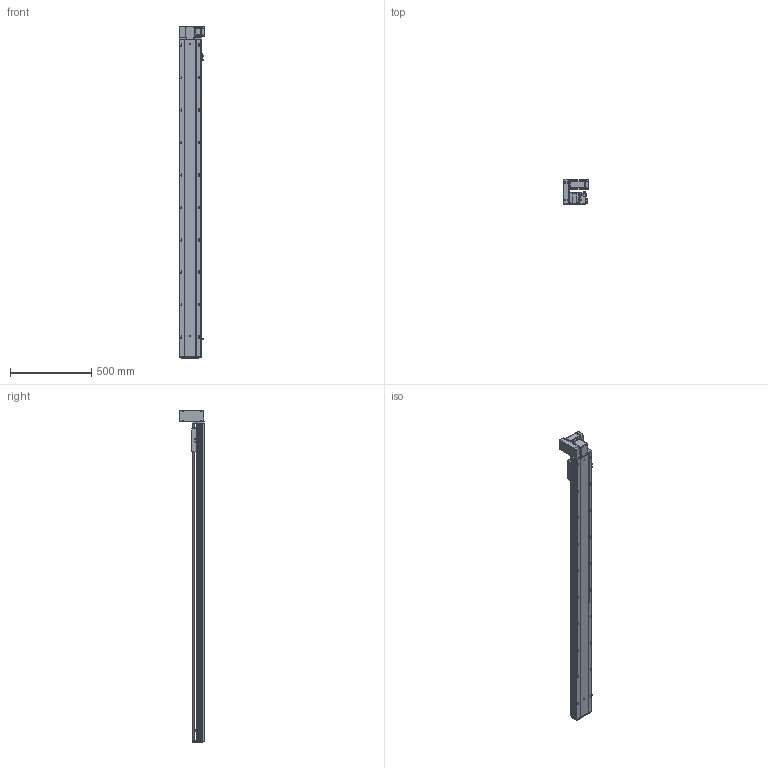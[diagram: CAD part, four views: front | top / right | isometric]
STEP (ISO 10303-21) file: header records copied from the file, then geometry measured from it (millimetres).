
FILE_DESCRIPTION (( 'STEP AP203' ), '1' );
FILE_NAME ('RY140-T-300-UL.SLDASM_1700.step', '2021-03-01T07:44:50', ( '盈信电脑' ), ( '东莞市道滘镇水果街19号' ), 'SwSTEP 2.0', 'SolidWorks 2012', '' );
FILE_SCHEMA (( 'CONFIG_CONTROL_DESIGN' ));
Length unit declared in the file: millimetre
Products named in the file (18): RY140-T-300-UL.SLDASM_1700; RY140-T翋肮謫裔啣; RY120-T主同步轮轴承压盖; RY140-T萇儂欶; RY120-T蹟翐M4; 滅袉蝶18-10; 侂狟400W侜督萇儂; RY140-T萇儂假蚾啣; 15; RY120-T肮祭湍揤踡輸2; RY140-T翋肮祭謫盓傅釱; RY120外置感应片(140共用）; RY120-T肮祭湍揤踡輸1; RY140綴裔啣; RY140肮祭謫臏賑輸; RY140-T-300-DL倰第奻裔啣_1700; 覜茼ん672; RY140-T-300-DL倰第菁釱_1700
Assembly tree (23 placements, depth 3):
  RY140-T-300-UL.SLDASM_1700
    RY140-T-300-DL倰第菁釱_1700
    RY140肮祭謫臏賑輸
    RY140-T-300-DL倰第奻裔啣_1700
    RY140綴裔啣
    覜茼ん672  x3
    RY120外置感应片(140共用）
    RY120-T肮祭湍揤踡輸2
    RY120-T肮祭湍揤踡輸1
    RY140-T翋肮祭謫盓傅釱
    RY140-T萇儂假蚾啣
    侂狟400W侜督萇儂
      15
    RY120-T主同步轮轴承压盖
    RY120-T蹟翐M4  x4
    RY140-T萇儂欶
    滅袉蝶18-10  x2
    RY140-T翋肮謫裔啣
Bounding box: 157 x 152.5 x 2046 mm (x, y, z)
Volume: 5671616.8 mm3; surface area: 2207896.7 mm2
Topology: 22 solids, 22 shells, 2815 faces, 7717 edges, 4918 vertices
Faces by surface type: plane 1381, cylinder 1064, cone 270, bspline 100
Entity records: 88915 total; most frequent: CARTESIAN_POINT 21579, ORIENTED_EDGE 13818, DIRECTION 13213, EDGE_CURVE 6909, VERTEX_POINT 4517, AXIS2_PLACEMENT_3D 4428, LINE 4357, VECTOR 4357
